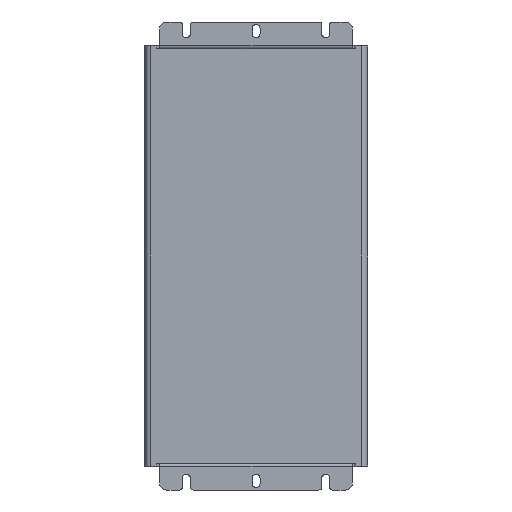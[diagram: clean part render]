
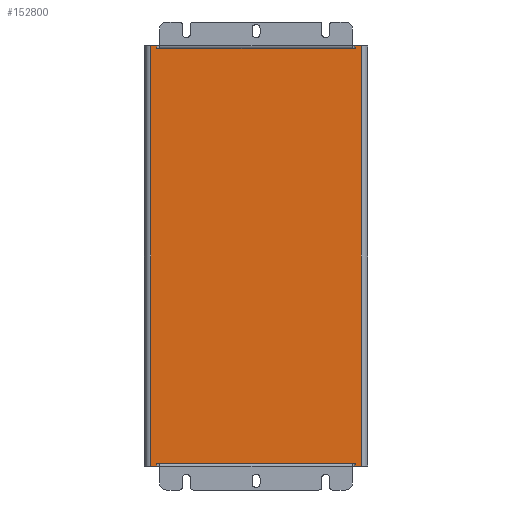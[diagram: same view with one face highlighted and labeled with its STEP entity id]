
A CAD part, front view. The second image highlights one B-rep face of the part: STEP entity #152800.
In plain terms, the highlighted planar face has unit normal (0, -1, 0).
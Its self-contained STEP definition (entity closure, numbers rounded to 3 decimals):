
#4670=CARTESIAN_POINT('',(1820.842,-2443.289,
79.4));
#4680=VERTEX_POINT('',#4670);
#4710=CARTESIAN_POINT('',(1820.842,-2443.289,79.4));
#4720=DIRECTION('',(0.,0.,-1.));
#4730=VECTOR('',#4720,1.);
#4740=LINE('',#4710,#4730);
#4750=CARTESIAN_POINT('',(1820.842,-2443.289,77.8));
#4760=VERTEX_POINT('',#4750);
#4770=EDGE_CURVE('',#4680,#4760,#4740,.T.);
#38000=CARTESIAN_POINT('',(1824.218,-2443.289,313.));
#38010=VERTEX_POINT('',#38000);
#38040=CARTESIAN_POINT('',(1712.324,-2443.289,313.));
#38050=DIRECTION('',(1.,0.,0.));
#38060=VECTOR('',#38050,1.);
#38070=LINE('',#38040,#38060);
#38080=CARTESIAN_POINT('',(1820.842,-2443.289,313.));
#38090=VERTEX_POINT('',#38080);
#38100=EDGE_CURVE('',#38090,#38010,#38070,.T.);
#38660=CARTESIAN_POINT('',(1709.842,-2443.289,313.));
#38670=VERTEX_POINT('',#38660);
#38700=CARTESIAN_POINT('',(1712.324,-2443.289,313.));
#38710=DIRECTION('',(1.,0.,0.));
#38720=VECTOR('',#38710,1.);
#38730=LINE('',#38700,#38720);
#38740=CARTESIAN_POINT('',(1706.467,-2443.289,313.));
#38750=VERTEX_POINT('',#38740);
#38760=EDGE_CURVE('',#38750,#38670,#38730,.T.);
#46040=CARTESIAN_POINT('',(1709.842,-2443.289,77.8));
#46050=VERTEX_POINT('',#46040);
#46080=CARTESIAN_POINT('',(1709.842,-2443.289,79.4));
#46090=DIRECTION('',(0.,0.,-1.));
#46100=VECTOR('',#46090,1.);
#46110=LINE('',#46080,#46100);
#46120=CARTESIAN_POINT('',(1709.842,-2443.289,
79.4));
#46130=VERTEX_POINT('',#46120);
#46140=EDGE_CURVE('',#46130,#46050,#46110,.T.);
#47270=CARTESIAN_POINT('',(1706.467,-2443.289,77.8));
#47280=VERTEX_POINT('',#47270);
#47370=CARTESIAN_POINT('',(1706.466,-2443.289,
84.4));
#47380=DIRECTION('',(0.,0.,1.));
#47390=VECTOR('',#47380,1.);
#47400=LINE('',#47370,#47390);
#47410=EDGE_CURVE('',#47280,#38750,#47400,.T.);
#47570=CARTESIAN_POINT('',(1824.218,-2443.289,77.8));
#47580=VERTEX_POINT('',#47570);
#47610=CARTESIAN_POINT('',(1824.218,-2443.289,
84.4));
#47620=DIRECTION('',(0.,0.,1.));
#47630=VECTOR('',#47620,1.);
#47640=LINE('',#47610,#47630);
#47650=EDGE_CURVE('',#47580,#38010,#47640,.T.);
#56530=CARTESIAN_POINT('',(1706.466,-2443.289,
79.4));
#56540=DIRECTION('',(1.,0.,0.));
#56550=VECTOR('',#56540,1.);
#56560=LINE('',#56530,#56550);
#56570=EDGE_CURVE('',#46130,#4680,#56560,.T.);
#134090=CARTESIAN_POINT('',(1820.842,-2443.289,311.4));
#134100=VERTEX_POINT('',#134090);
#134130=CARTESIAN_POINT('',(1706.466,-2443.289,
311.4));
#134140=DIRECTION('',(1.,0.,0.));
#134150=VECTOR('',#134140,1.);
#134160=LINE('',#134130,#134150);
#134170=CARTESIAN_POINT('',(1709.842,-2443.289,311.4));
#134180=VERTEX_POINT('',#134170);
#134190=EDGE_CURVE('',#134180,#134100,#134160,.T.);
#136840=CARTESIAN_POINT('',(1709.842,-2443.289,311.4));
#136850=DIRECTION('',(0.,0.,1.));
#136860=VECTOR('',#136850,1.);
#136870=LINE('',#136840,#136860);
#136880=EDGE_CURVE('',#134180,#38670,#136870,.T.);
#145960=CARTESIAN_POINT('',(1820.842,-2443.289,311.4));
#145970=DIRECTION('',(0.,0.,1.));
#145980=VECTOR('',#145970,1.);
#145990=LINE('',#145960,#145980);
#146000=EDGE_CURVE('',#134100,#38090,#145990,.T.);
#152510=CARTESIAN_POINT('',(1827.342,-2443.289,311.4));
#152520=DIRECTION('',(-0.,-1.,-0.));
#152530=DIRECTION('',(-1.,0.,0.));
#152540=AXIS2_PLACEMENT_3D('',#152510,#152520,#152530);
#152550=PLANE('',#152540);
#152560=CARTESIAN_POINT('',(1818.36,-2443.289,77.8));
#152570=DIRECTION('',(-1.,0.,0.));
#152580=VECTOR('',#152570,1.);
#152590=LINE('',#152560,#152580);
#152600=EDGE_CURVE('',#47580,#4760,#152590,.T.);
#152610=ORIENTED_EDGE('',*,*,#152600,.F.);
#152620=ORIENTED_EDGE('',*,*,#4770,.T.);
#152630=ORIENTED_EDGE('',*,*,#56570,.T.);
#152640=ORIENTED_EDGE('',*,*,#46140,.F.);
#152650=CARTESIAN_POINT('',(1818.36,-2443.289,77.8));
#152660=DIRECTION('',(-1.,0.,0.));
#152670=VECTOR('',#152660,1.);
#152680=LINE('',#152650,#152670);
#152690=EDGE_CURVE('',#46050,#47280,#152680,.T.);
#152700=ORIENTED_EDGE('',*,*,#152690,.F.);
#152710=ORIENTED_EDGE('',*,*,#47410,.F.);
#152720=ORIENTED_EDGE('',*,*,#38760,.F.);
#152730=ORIENTED_EDGE('',*,*,#136880,.T.);
#152740=ORIENTED_EDGE('',*,*,#134190,.F.);
#152750=ORIENTED_EDGE('',*,*,#146000,.F.);
#152760=ORIENTED_EDGE('',*,*,#38100,.F.);
#152770=ORIENTED_EDGE('',*,*,#47650,.T.);
#152780=EDGE_LOOP('',(#152770,#152760,#152750,#152740,#152730,#152720,
#152710,#152700,#152640,#152630,#152620,#152610));
#152790=FACE_OUTER_BOUND('',#152780,.T.);
#152800=ADVANCED_FACE('',(#152790),#152550,.T.);
